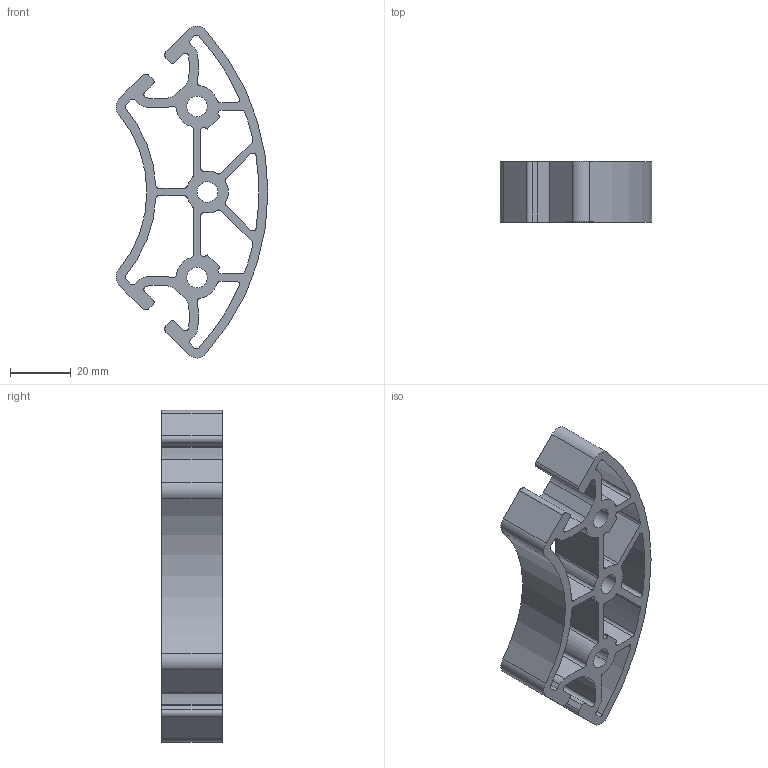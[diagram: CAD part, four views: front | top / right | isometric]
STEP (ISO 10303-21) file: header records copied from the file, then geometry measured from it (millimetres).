
FILE_DESCRIPTION(('STEP AP214'),'1');
FILE_NAME('cctmp_C8CB291B-509C-483B-89A4-4D32A3986A83_2023_04_28_14_40_56_0485_47996..stp','2023-04-28T12:40:56',('item Industrietechnik GmbH'),('CADClick - www.CADClick.com'),'Spatial InterOp 3D',' ','unknown authorization');
FILE_SCHEMA(('AUTOMOTIVE_DESIGN'));
Length unit declared in the file: millimetre
Products named in the file (2): item_0042768_Profile 8 R40/80-90°_L=20; item_0042768_Profile 8 R40/80-90°_L=20_1
Assembly tree (1 placements, depth 2):
  item_0042768_Profile 8 R40/80-90°_L=20
    item_0042768_Profile 8 R40/80-90°_L=20_1
Bounding box: 50.19 x 20 x 109.67 mm (x, y, z)
Volume: 30224 mm3; surface area: 20812.1 mm2
Topology: 1 solids, 1 shells, 144 faces, 426 edges, 284 vertices
Faces by surface type: cylinder 100, plane 44
Entity records: 6153 total; most frequent: DIRECTION 918, CARTESIAN_POINT 856, ORIENTED_EDGE 852, EDGE_CURVE 426, AXIS2_PLACEMENT_3D 346, VERTEX_POINT 284, LINE 226, VECTOR 226
